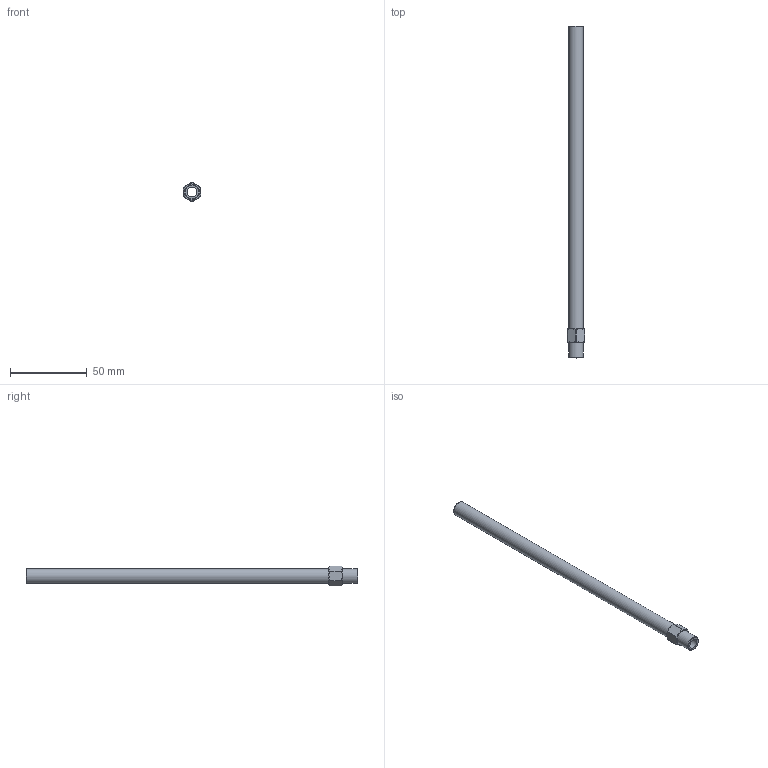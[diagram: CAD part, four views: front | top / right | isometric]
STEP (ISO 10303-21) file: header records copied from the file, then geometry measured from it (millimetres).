
FILE_DESCRIPTION(/* description */ (''),/* implementation_level */ '2;1');
FILE_NAME(/* name */ 'C:/Users/drich/Desktop/APN18-8-1_2 v1.step',/* time_stamp */ '2019-12-27T17:52:02-06:00',/* author */ (''),/* organization */ (''),/* preprocessor_version */ 'ST-DEVELOPER v18',/* originating_system */ 'Autodesk Translation Framework v8.12.0.6',/* authorisation */ '');
FILE_SCHEMA (('AUTOMOTIVE_DESIGN { 1 0 10303 214 3 1 1 }'));
Length unit declared in the file: inch
Products named in the file (1): APN18-8-1_2
Bounding box: 11.07 x 215.9 x 12.7 mm (x, y, z)
Volume: 9144.1 mm3; surface area: 11019.5 mm2
Topology: 1 solids, 1 shells, 23 faces, 59 edges, 40 vertices
Faces by surface type: plane 10, cylinder 9, cone 4
Full cylindrical faces by diameter (mm): 6.35 x1, 9.621 x2
Entity records: 751 total; most frequent: CARTESIAN_POINT 147, DIRECTION 123, ORIENTED_EDGE 118, EDGE_CURVE 59, AXIS2_PLACEMENT_3D 52, VERTEX_POINT 40, CIRCLE 28, EDGE_LOOP 27
